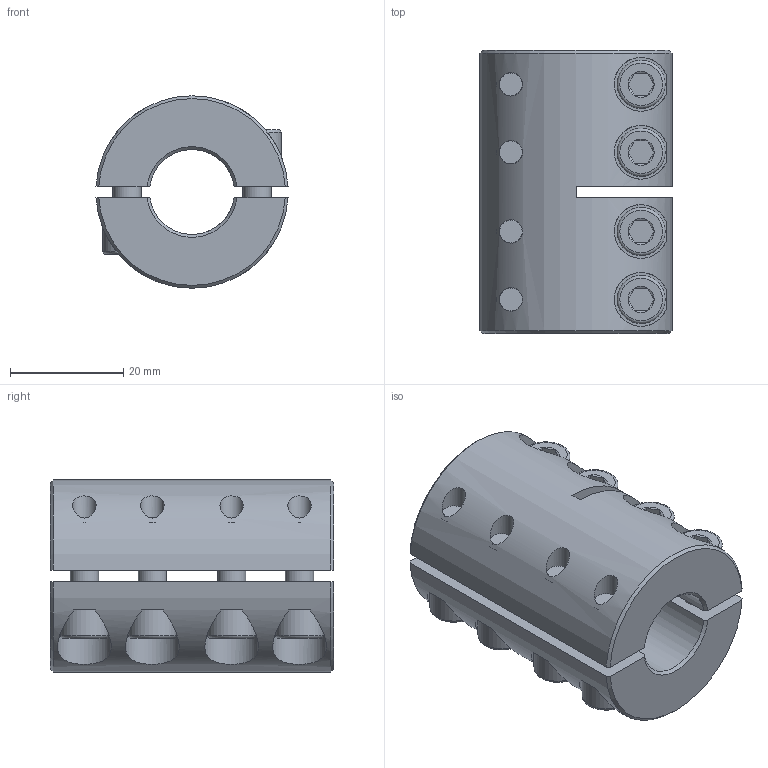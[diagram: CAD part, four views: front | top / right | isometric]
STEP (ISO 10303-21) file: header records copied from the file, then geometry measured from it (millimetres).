
FILE_DESCRIPTION( ( 'Unknown' ), '1' );
FILE_NAME( 'K:/Konstruktion/Fertigungszeichnungen/Schalenkupplung/KBST-G/KBST-G-15.stp', 'Unknown', ( 'Unknown' ), ( 'Unknown' ), 'PSStep 16.0.42', 'Unknown', ' ' );
FILE_SCHEMA( ( 'AUTOMOTIVE_DESIGN { 1 0 10303 214 1 1 1 1 }' ) );
Length unit declared in the file: millimetre
Products named in the file (4): Assem1; KBST-G-15; ISO EN DIN 4762 M5x16
Assembly tree (10 placements, depth 2):
  Assem1
    KBST-G-15
    KBST-G-15
    ISO EN DIN 4762 M5x16  x8
Bounding box: 33.94 x 50 x 34 mm (x, y, z)
Volume: 32861.7 mm3; surface area: 17516.2 mm2
Topology: 10 solids, 10 shells, 228 faces, 452 edges, 268 vertices
Faces by surface type: plane 104, cone 64, cylinder 44, torus 16
Full cylindrical faces by diameter (mm): 4.134 x8, 5 x8, 5.3 x8, 8.5 x8
Entity records: 3954 total; most frequent: CARTESIAN_POINT 1420, DIRECTION 374, ORIENTED_EDGE 318, AXIS2_PLACEMENT_3D 161, EDGE_CURVE 159, EDGE_LOOP 144, VERTEX_POINT 115, FACE_OUTER_BOUND 101
